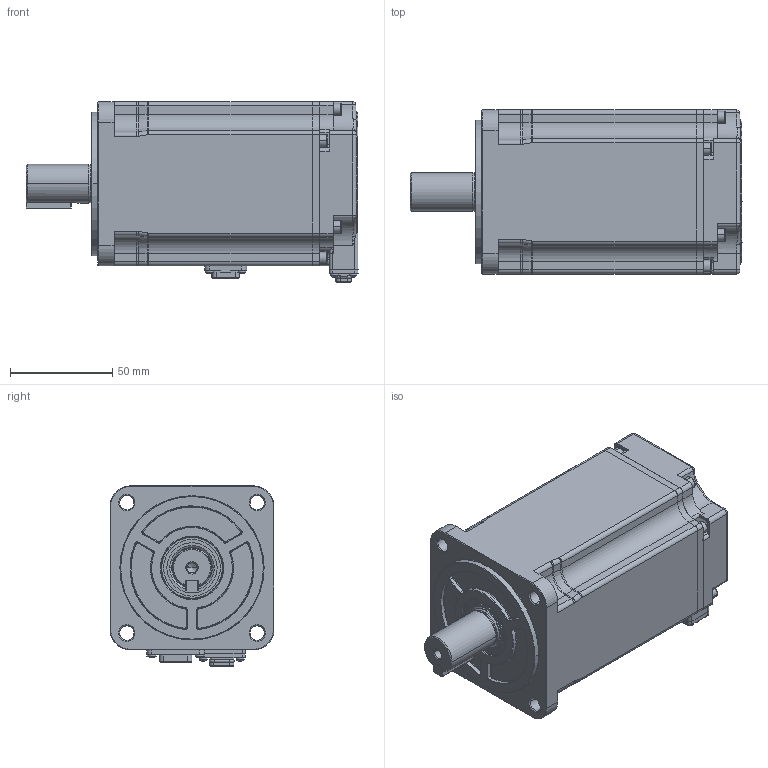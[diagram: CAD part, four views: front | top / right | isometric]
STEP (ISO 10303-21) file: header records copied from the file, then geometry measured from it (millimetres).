
FILE_DESCRIPTION((''),'2;1');
FILE_NAME('IMS20B-08M75B30C-2-XX4-AUL_ASM','2024-09-09T09:10:25',('admin'),(''),'CREO PARAMETRIC BY PTC INC, 2019080','CREO PARAMETRIC BY PTC INC, 2019080','');
FILE_SCHEMA(('CONFIG_CONTROL_DESIGN'));
Products named in the file (25): 75B-20002_1_AF0; SC-MC6P-AP2G-04_05__4_AF0; 75B-20001_ASM_2_AF0_ASM; 75B-0007_2_AF0; 600400_4_AF0; 620100_4_AF0; 80-2-0001_3_AF0; 8000_4_ASM; 75B-20003_ASM_3_AF0_ASM; 80-20001_4; SC-MC7P-A60G-18_4; 8030-19-40001_6; ISO7045-M2X4_1_AF0; ISO7045-M2X4_1_AF1; ISO7045-M2X4_1_AF2; ISO7045-M2X4_1_AF3; ISO7045-M2X5_1; ISO4762-M3X10_3; ISO4762-M3X10_3_AF0; ISO4762-M3X10_3_AF1; ISO4762-M3X10_3_AF2; ISO4762-M3X10_3_AF3; A6X6X22000_5; 75B-0006_ASM_6_AF0_ASM; IMS20B-08M75B30C-2-XX4-AUL_ASM
Assembly tree (30 placements, depth 4):
  IMS20B-08M75B30C-2-XX4-AUL_ASM
    75B-0006_ASM_6_AF0_ASM
      75B-20001_ASM_2_AF0_ASM
        75B-20002_1_AF0
        SC-MC6P-AP2G-04_05__4_AF0
      75B-20003_ASM_3_AF0_ASM
        75B-0007_2_AF0
        600400_4_AF0
        620100_4_AF0
        80-2-0001_3_AF0
        8000_4_ASM
      80-20001_4
      SC-MC7P-A60G-18_4
      8030-19-40001_6
      ISO7045-M2X4_1_AF0
      ISO7045-M2X4_1_AF1
      ISO7045-M2X4_1_AF2
      ISO7045-M2X4_1_AF3
      ISO7045-M2X5_1  x4
      ISO4762-M3X10_3  x4
      ISO4762-M3X10_3_AF0
      ISO4762-M3X10_3_AF1
      ISO4762-M3X10_3_AF2
      ISO4762-M3X10_3_AF3
      A6X6X22000_5
Bounding box: 162 x 80 x 87.95 mm (x, y, z)
Volume: 221003.8 mm3; surface area: 128566.4 mm2
Topology: 26 solids, 58 shells, 2617 faces, 6801 edges, 4339 vertices
Faces by surface type: plane 1290, cylinder 832, torus 202, cone 154, sphere 56, extrusion 49, bspline 34
Entity records: 83313 total; most frequent: CARTESIAN_POINT 20558, DIRECTION 13467, ORIENTED_EDGE 12714, EDGE_CURVE 6409, AXIS2_PLACEMENT_3D 4790, VERTEX_POINT 4123, VECTOR 3887, LINE 3838
